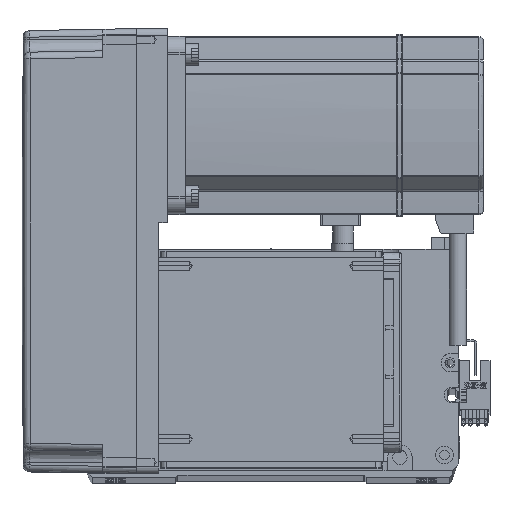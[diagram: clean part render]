
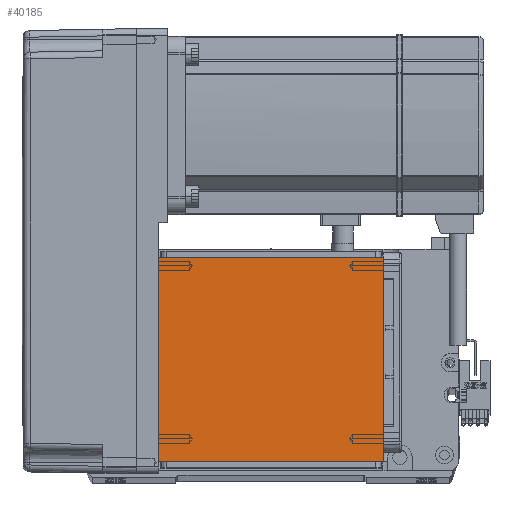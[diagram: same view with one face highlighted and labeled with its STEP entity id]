
A CAD part, top view. The second image highlights one B-rep face of the part: STEP entity #40185.
In plain terms, the highlighted planar face has unit normal (0, 0, 1).
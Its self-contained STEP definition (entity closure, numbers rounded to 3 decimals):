
#1679 = VECTOR ( 'NONE', #53144, 1000. ) ;
#2492 = DIRECTION ( 'NONE',  ( 1., 0., 0. ) ) ;
#3600 = CARTESIAN_POINT ( 'NONE',  ( -50.5, 20., 115. ) ) ;
#5352 = CARTESIAN_POINT ( 'NONE',  ( 50.5, 20., 115. ) ) ;
#6184 = EDGE_CURVE ( 'NONE', #24244, #60117, #11875, .T. ) ;
#7975 = AXIS2_PLACEMENT_3D ( 'NONE', #45106, #49786, #26667 ) ;
#9461 = VECTOR ( 'NONE', #2492, 1000. ) ;
#11132 = LINE ( 'NONE', #22244, #38851 ) ;
#11875 = LINE ( 'NONE', #19785, #1679 ) ;
#15721 = CARTESIAN_POINT ( 'NONE',  ( -50.5, 111.5, 115. ) ) ;
#18133 = DIRECTION ( 'NONE',  ( 0., 1., 0. ) ) ;
#19785 = CARTESIAN_POINT ( 'NONE',  ( -70.004, 20., 115. ) ) ;
#20841 = CARTESIAN_POINT ( 'NONE',  ( -50.5, 122., 115. ) ) ;
#22244 = CARTESIAN_POINT ( 'NONE',  ( 50.5, 122., 115. ) ) ;
#23012 = CARTESIAN_POINT ( 'NONE',  ( 50.5, 111.5, 115. ) ) ;
#23379 = LINE ( 'NONE', #34882, #9461 ) ;
#24244 = VERTEX_POINT ( 'NONE', #5352 ) ;
#24675 = EDGE_CURVE ( 'NONE', #53899, #60117, #43692, .T. ) ;
#26667 = DIRECTION ( 'NONE',  ( 1., 0., 0. ) ) ;
#31195 = EDGE_LOOP ( 'NONE', ( #40638, #38186, #36325, #47873 ) ) ;
#33537 = VECTOR ( 'NONE', #58500, 1000. ) ;
#34882 = CARTESIAN_POINT ( 'NONE',  ( -70.004, 111.5, 115. ) ) ;
#36325 = ORIENTED_EDGE ( 'NONE', *, *, #6184, .F. ) ;
#37813 = VERTEX_POINT ( 'NONE', #23012 ) ;
#38186 = ORIENTED_EDGE ( 'NONE', *, *, #24675, .T. ) ;
#38851 = VECTOR ( 'NONE', #18133, 1000. ) ;
#40185 = ADVANCED_FACE ( 'NONE', ( #56378 ), #54338, .T. ) ;
#40638 = ORIENTED_EDGE ( 'NONE', *, *, #50304, .F. ) ;
#43692 = LINE ( 'NONE', #20841, #33537 ) ;
#45106 = CARTESIAN_POINT ( 'NONE',  ( 0., 0., 115. ) ) ;
#47873 = ORIENTED_EDGE ( 'NONE', *, *, #59550, .T. ) ;
#49786 = DIRECTION ( 'NONE',  ( 0., 0., 1. ) ) ;
#50304 = EDGE_CURVE ( 'NONE', #53899, #37813, #23379, .T. ) ;
#53144 = DIRECTION ( 'NONE',  ( -1., 0., 0. ) ) ;
#53899 = VERTEX_POINT ( 'NONE', #15721 ) ;
#54338 = PLANE ( 'NONE',  #7975 ) ;
#56378 = FACE_OUTER_BOUND ( 'NONE', #31195, .T. ) ;
#58500 = DIRECTION ( 'NONE',  ( 0., -1., 0. ) ) ;
#59550 = EDGE_CURVE ( 'NONE', #24244, #37813, #11132, .T. ) ;
#60117 = VERTEX_POINT ( 'NONE', #3600 ) ;
